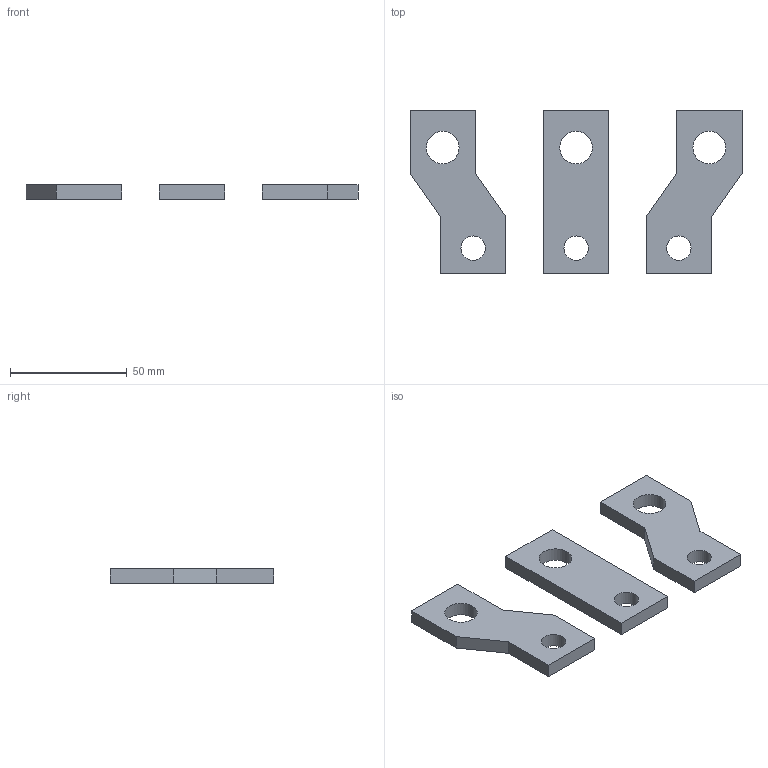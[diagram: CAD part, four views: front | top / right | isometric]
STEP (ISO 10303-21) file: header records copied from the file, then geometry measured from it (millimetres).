
FILE_DESCRIPTION(('FreeCAD Model'),'2;1');
FILE_NAME('Open CASCADE Shape Model','2022-08-23T10:25:22',( 'Engenharia Metaltex'),('Metaltex'), 'Open CASCADE STEP processor 7.5','FreeCAD','Unknown');
FILE_SCHEMA(('AUTOMOTIVE_DESIGN { 1 0 10303 214 1 1 1 1 }'));
Length unit declared in the file: millimetre
Products named in the file (4): DCM-T400; Body081; Body082; Body083
Assembly tree (3 placements, depth 2):
  DCM-T400
    Body081
    Body082
    Body083
Bounding box: 142.1 x 70 x 6 mm (x, y, z)
Volume: 30980 mm3; surface area: 15333.1 mm2
Topology: 3 solids, 3 shells, 32 faces, 78 edges, 52 vertices
Faces by surface type: plane 26, cylinder 6
Full cylindrical faces by diameter (mm): 10.4 x3, 14 x3
Entity records: 2088 total; most frequent: CARTESIAN_POINT 370, DIRECTION 310, LINE 210, VECTOR 210, ORIENTED_EDGE 156, PCURVE 156, DEFINITIONAL_REPRESENTATION 156, EDGE_CURVE 78
